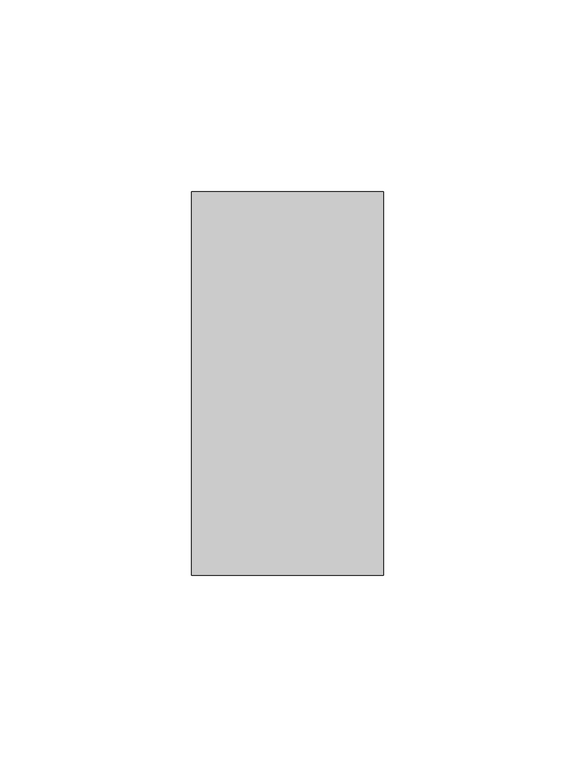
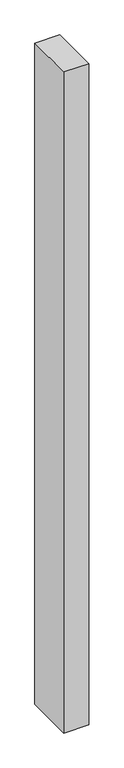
"""IFC4 building model written with IfcOpenShell, lengths in millimetres: member geometry, Прямоугольный импост : 50х100."""

import ifcopenshell
import ifcopenshell.guid

model = None  # the IFC model being written
_history = None  # IfcOwnerHistory: only IFC2X3 demands one
_inside = {}  # id of a spatial element -> (the spatial element, [elements in it])
_under = {}  # id of a project, library or spatial element -> (it, [spatial elements below it])
_declared = {}  # id of a project -> (the project, [libraries it declares])
_typed = {}  # id of a type object -> (the type object, [elements of that type])
_made_of = {}  # id of a material, layer set ... -> (it, [elements and type objects made of it])


def new_model(schema):
    """Start an empty IFC model of exactly this schema.

    Asked for "IFC4X3", IfcOpenShell would pick the latest addendum, in which some entities
    have other attributes; the version numbers below select the first issue.
    IFC2X3 requires an IfcOwnerHistory on every rooted entity: one is made here for all.
    """
    global model, _history
    if schema == "IFC4X3":
        model = ifcopenshell.file(schema_version=(4, 3, 0, 0))
    else:
        model = ifcopenshell.file(schema=schema)
    _inside.clear()
    _under.clear()
    _declared.clear()
    _typed.clear()
    _made_of.clear()
    _history = None
    if model.schema == "IFC2X3":
        org = make("IfcOrganization", Name="unknown")
        user = make(
            "IfcPersonAndOrganization",
            ThePerson=make("IfcPerson", FamilyName="unknown"),
            TheOrganization=org,
        )
        app = make(
            "IfcApplication",
            ApplicationDeveloper=org,
            Version="unknown",
            ApplicationFullName="unknown",
            ApplicationIdentifier="unknown",
        )
        _history = make(
            "IfcOwnerHistory",
            OwningUser=user,
            OwningApplication=app,
            ChangeAction="ADDED",
            CreationDate=0,
        )
    return model


def make(cls, **values):
    """One entity of the class cls with the attributes given. An attribute that is None is left unset."""
    return model.create_entity(
        cls, **{name: value for name, value in values.items() if value is not None}
    )


def rooted(cls, **values):
    """An entity with a GlobalId (a new one), such as an element, a storey or a relation."""
    return make(cls, GlobalId=ifcopenshell.guid.new(), OwnerHistory=_history, **values)


def si_unit(unit_type, name, prefix=None):
    """IfcSIUnit, for example si_unit("LENGTHUNIT", "METRE", prefix="MILLI")."""
    return make("IfcSIUnit", UnitType=unit_type, Prefix=prefix, Name=name)


def assignment(units):
    """IfcUnitAssignment: the units of a project."""
    return None if units is None else make("IfcUnitAssignment", Units=units)


def point(xyz):
    """IfcCartesianPoint."""
    return None if xyz is None else make("IfcCartesianPoint", Coordinates=xyz)


def direction(xyz):
    """IfcDirection."""
    return None if xyz is None else make("IfcDirection", DirectionRatios=xyz)


def frame(location, z_axis=None, x_axis=None):
    """IfcAxis2Placement3D, a coordinate frame: its origin and axes. An axis left out is left unset."""
    return make(
        "IfcAxis2Placement3D",
        Location=point(location),
        Axis=direction(z_axis),
        RefDirection=direction(x_axis),
    )


def origin():
    """The frame at (0, 0, 0) with its axes left unset."""
    return frame((0.0, 0.0, 0.0))


def place(relative_to, where):
    """IfcLocalPlacement: puts the frame where relative to a parent placement (None: the world)."""
    return make(
        "IfcLocalPlacement", PlacementRelTo=relative_to, RelativePlacement=where
    )


def context(
    kind, dimensions, precision=None, world=None, true_north=None, identifier=None
):
    """IfcGeometricRepresentationContext, for example the 3D "Model" context."""
    return make(
        "IfcGeometricRepresentationContext",
        ContextIdentifier=identifier,
        ContextType=kind,
        CoordinateSpaceDimension=dimensions,
        Precision=precision,
        WorldCoordinateSystem=world,
        TrueNorth=true_north,
    )


def project(units=None, contexts=None):
    """IfcProject with its units and contexts."""
    return rooted(
        "IfcProject",
        Name="project",
        RepresentationContexts=contexts,
        UnitsInContext=assignment(units),
    )


def spatial(cls, under=None, at=None, **own):
    """A site, building, storey or space (cls), placed at a placement, below another one or the project."""
    s = rooted(cls, ObjectPlacement=at, **own)
    if under is not None:
        _under.setdefault(under.id(), (under, []))[1].append(s)
    return s


def polyline(points):
    """IfcPolyline through the points."""
    return make("IfcPolyline", Points=[point(p) for p in points])


def outline(outer, holes=None, kind="AREA"):
    """IfcArbitraryClosedProfileDef: a profile drawn as a closed curve; with holes, ...WithVoids."""
    if holes is None:
        return make("IfcArbitraryClosedProfileDef", ProfileType=kind, OuterCurve=outer)
    return make(
        "IfcArbitraryProfileDefWithVoids",
        ProfileType=kind,
        OuterCurve=outer,
        InnerCurves=holes,
    )


def extrude(swept, where, along, depth):
    """IfcExtrudedAreaSolid: the profile swept, set in the frame where, extruded along a direction by depth."""
    return make(
        "IfcExtrudedAreaSolid",
        SweptArea=swept,
        Position=where,
        ExtrudedDirection=direction(along),
        Depth=depth,
    )


def shape(context_of_items, identifier, shape_type, items):
    """IfcShapeRepresentation: the items that make up one representation, for example the "Body"."""
    return make(
        "IfcShapeRepresentation",
        ContextOfItems=context_of_items,
        RepresentationIdentifier=identifier,
        RepresentationType=shape_type,
        Items=items,
    )


def source(mapping_origin, context_of_items, identifier, shape_type, items):
    """IfcRepresentationMap: a shape defined once, which mapped items show again and again."""
    return make(
        "IfcRepresentationMap",
        MappingOrigin=mapping_origin,
        MappedRepresentation=shape(context_of_items, identifier, shape_type, items),
    )


def transform(
    local_origin,
    x_axis=None,
    y_axis=None,
    z_axis=None,
    scale=None,
    scale2=None,
    scale3=None,
    uniform=True,
):
    """IfcCartesianTransformationOperator3D, or its non-uniform kind. x_axis, y_axis, z_axis: its Axis1, 2, 3."""
    if uniform:
        return make(
            "IfcCartesianTransformationOperator3D",
            Axis1=direction(x_axis),
            Axis2=direction(y_axis),
            LocalOrigin=point(local_origin),
            Scale=scale,
            Axis3=direction(z_axis),
        )
    return make(
        "IfcCartesianTransformationOperator3DnonUniform",
        Axis1=direction(x_axis),
        Axis2=direction(y_axis),
        LocalOrigin=point(local_origin),
        Scale=scale,
        Axis3=direction(z_axis),
        Scale2=scale2,
        Scale3=scale3,
    )


def mapped(mapping_source, mapping_target):
    """IfcMappedItem: shows the shape of a source again, moved by a transform."""
    return make(
        "IfcMappedItem", MappingSource=mapping_source, MappingTarget=mapping_target
    )


def made_of(thing, what):
    """Note that an element or type object is made of a material, layer set ...; save() writes the relation."""
    if what is not None:
        _made_of.setdefault(what.id(), (what, []))[1].append(thing)
    return thing


def element(
    cls,
    number,
    at=None,
    inside=None,
    cuts=None,
    type_object=None,
    material=None,
    context=None,
    identifier="Body",
    shape_type=None,
    held_by="IfcProductDefinitionShape",
    body=None,
    shapes=None,
    **own,
):
    """One element of the class cls, such as IfcWall. Its Tag is "e" and its number.

    at: its placement. inside: the storey or other place that contains it. cuts: it is an
    opening in that element (IfcRelVoidsElement). A single representation is given by context,
    identifier, shape_type and body (its items); several are given by shapes. held_by: the class
    of the entity that holds the representations. save() writes the other relations.
    """
    e = rooted(cls, Tag="e%d" % number, ObjectPlacement=at, **own)
    if body is not None:
        shapes = [shape(context, identifier, shape_type, body)]
    if shapes is not None:
        e.Representation = make(held_by, Representations=shapes)
    if inside is not None:
        _inside.setdefault(inside.id(), (inside, []))[1].append(e)
    if cuts is not None:
        rooted(
            "IfcRelVoidsElement", RelatingBuildingElement=cuts, RelatedOpeningElement=e
        )
    if type_object is not None:
        _typed.setdefault(type_object.id(), (type_object, []))[1].append(e)
    return made_of(e, material)


def aggregate(whole, parts):
    """IfcRelAggregates: a whole, such as a stair, and the parts it consists of."""
    return rooted("IfcRelAggregates", RelatingObject=whole, RelatedObjects=parts)


def save(model, path):
    """Write the relations noted so far, then the file.

    IfcRelAggregates (storeys below a building ...), IfcRelContainedInSpatialStructure (elements
    in a storey), IfcRelDefinesByType, IfcRelAssociatesMaterial and IfcRelDeclares: one each for
    every whole, place, type object, material and project.
    """
    for whole, parts in _under.values():
        aggregate(whole, parts)
    for where, things in _inside.values():
        rooted(
            "IfcRelContainedInSpatialStructure",
            RelatedElements=things,
            RelatingStructure=where,
        )
    for kind, things in _typed.values():
        rooted("IfcRelDefinesByType", RelatedObjects=things, RelatingType=kind)
    for what, things in _made_of.values():
        rooted("IfcRelAssociatesMaterial", RelatedObjects=things, RelatingMaterial=what)
    for by, libraries in _declared.values():
        rooted("IfcRelDeclares", RelatingContext=by, RelatedDefinitions=libraries)
    model.write(path)


def member_d378b2fa(model_context):
    return source(origin(), model_context, "Body", "SweptSolid", [
        extrude(outline(polyline([(0.0, 50.0), (0.0, -50.0), (-50.0, -50.0), (-50.0, 50.0), (0.0, 50.0)])), frame((0.0, 0.0, -1400.0), z_axis=(0.0, 0.0, 1.0), x_axis=(1.0, 0.0, 0.0)), (0.0, 0.0, 1.0), 1400.0),
    ])


if __name__ == "__main__":
    model = new_model("IFC4")
    model_context = context("Model", 3, world=origin())
    ifc_project = project(units=[si_unit("LENGTHUNIT", "METRE", prefix="MILLI")], contexts=[model_context])
    site = spatial("IfcSite", under=ifc_project)
    building = spatial("IfcBuilding", under=site)
    placement = place(None, origin())
    member_shape = member_d378b2fa(model_context)
    element("IfcMember", 1, ObjectType="Прямоугольный импост : 50х100", at=placement, inside=building, context=model_context, shape_type="MappedRepresentation", body=[
        mapped(member_shape, transform((0.0, 0.0, 0.0), x_axis=(1.0, 0.0, 0.0), y_axis=(0.0, 1.0, 0.0), z_axis=(0.0, 0.0, 1.0))),
    ])
    save(model, "model.ifc")
